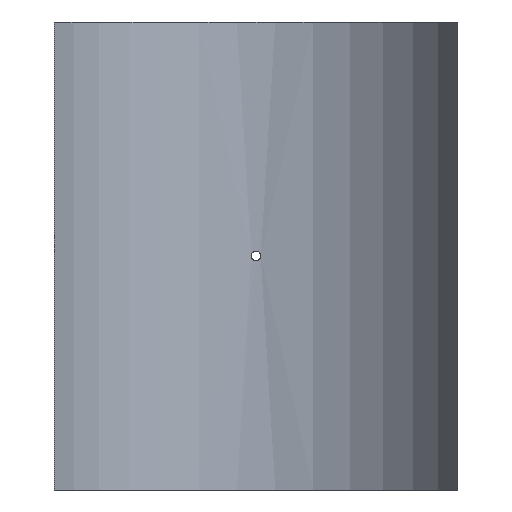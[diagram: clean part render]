
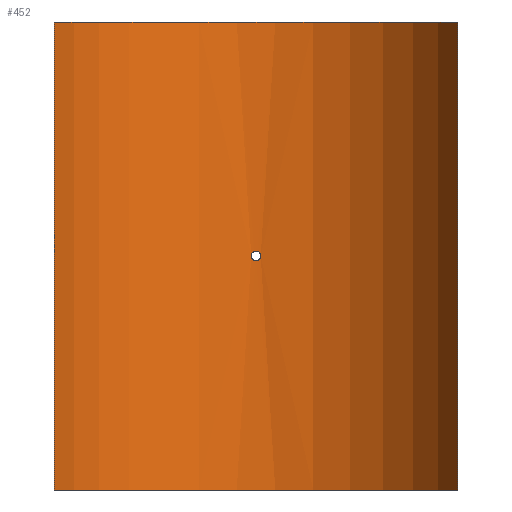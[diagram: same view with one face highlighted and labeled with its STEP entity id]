
A CAD part, front view. The second image highlights one B-rep face of the part: STEP entity #452.
In plain terms, the highlighted cylindrical face has radius 225 mm (diameter 450 mm), a partial arc.
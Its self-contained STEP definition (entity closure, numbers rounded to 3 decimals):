
#19=B_SPLINE_CURVE_WITH_KNOTS('',3,(#788,#789,#790,#791,#792,#793,#794,
#795,#796,#797,#798,#799,#800,#801,#802,#803,#804,#805,#806,#807,#808,#809,
#810,#811,#812,#813,#814,#815,#816,#817,#818,#819,#820,#821),
 .UNSPECIFIED.,.T.,.F.,(4,2,2,2,2,2,2,2,2,2,2,2,2,2,2,2,4),(0.,0.181,
0.362,0.542,0.723,0.904,
1.085,1.266,1.447,1.627,1.808,
1.989,2.17,2.351,2.531,2.712,
2.893),.UNSPECIFIED.);
#43=LINE('',#1065,#62);
#44=LINE('',#1068,#63);
#62=VECTOR('',#661,10.);
#63=VECTOR('',#664,10.);
#76=CYLINDRICAL_SURFACE('',#530,225.);
#88=FACE_BOUND('',#167,.T.);
#127=FACE_OUTER_BOUND('',#166,.T.);
#166=EDGE_LOOP('',(#405,#406,#407,#408));
#167=EDGE_LOOP('',(#409));
#201=CIRCLE('',#529,225.);
#202=CIRCLE('',#531,225.);
#219=VERTEX_POINT('',#786);
#242=VERTEX_POINT('',#1058);
#243=VERTEX_POINT('',#1060);
#244=VERTEX_POINT('',#1064);
#245=VERTEX_POINT('',#1066);
#267=EDGE_CURVE('',#219,#219,#19,.T.);
#299=EDGE_CURVE('',#242,#243,#201,.T.);
#301=EDGE_CURVE('',#244,#242,#43,.T.);
#302=EDGE_CURVE('',#245,#244,#202,.T.);
#303=EDGE_CURVE('',#245,#243,#44,.T.);
#405=ORIENTED_EDGE('',*,*,#301,.F.);
#406=ORIENTED_EDGE('',*,*,#302,.F.);
#407=ORIENTED_EDGE('',*,*,#303,.T.);
#408=ORIENTED_EDGE('',*,*,#299,.F.);
#409=ORIENTED_EDGE('',*,*,#267,.T.);
#452=ADVANCED_FACE('',(#127,#88),#76,.F.);
#529=AXIS2_PLACEMENT_3D('',#1061,#656,#657);
#530=AXIS2_PLACEMENT_3D('',#1063,#659,#660);
#531=AXIS2_PLACEMENT_3D('',#1067,#662,#663);
#656=DIRECTION('center_axis',(0.,0.,1.));
#657=DIRECTION('ref_axis',(0.9,0.436,0.));
#659=DIRECTION('center_axis',(0.,0.,1.));
#660=DIRECTION('ref_axis',(0.9,0.436,0.));
#661=DIRECTION('',(0.,0.,-1.));
#662=DIRECTION('center_axis',(0.,0.,-1.));
#663=DIRECTION('ref_axis',(0.9,0.436,0.));
#664=DIRECTION('',(0.,0.,-1.));
#786=CARTESIAN_POINT('',(4.8,224.949,0.));
#788=CARTESIAN_POINT('Ctrl Pts',(4.8,224.949,0.));
#789=CARTESIAN_POINT('Ctrl Pts',(4.8,224.949,-0.603));
#790=CARTESIAN_POINT('Ctrl Pts',(4.68,224.951,-1.246));
#791=CARTESIAN_POINT('Ctrl Pts',(4.19,224.961,-2.428));
#792=CARTESIAN_POINT('Ctrl Pts',(3.82,224.968,-2.968));
#793=CARTESIAN_POINT('Ctrl Pts',(2.968,224.981,-3.82));
#794=CARTESIAN_POINT('Ctrl Pts',(2.428,224.988,-4.19));
#795=CARTESIAN_POINT('Ctrl Pts',(1.246,224.997,-4.68));
#796=CARTESIAN_POINT('Ctrl Pts',(0.603,225.,-4.8));
#797=CARTESIAN_POINT('Ctrl Pts',(-0.603,225.,-4.8));
#798=CARTESIAN_POINT('Ctrl Pts',(-1.246,224.997,-4.68));
#799=CARTESIAN_POINT('Ctrl Pts',(-2.428,224.988,-4.19));
#800=CARTESIAN_POINT('Ctrl Pts',(-2.968,224.981,-3.82));
#801=CARTESIAN_POINT('Ctrl Pts',(-3.82,224.968,-2.968));
#802=CARTESIAN_POINT('Ctrl Pts',(-4.19,224.961,-2.428));
#803=CARTESIAN_POINT('Ctrl Pts',(-4.68,224.951,-1.246));
#804=CARTESIAN_POINT('Ctrl Pts',(-4.8,224.949,-0.603));
#805=CARTESIAN_POINT('Ctrl Pts',(-4.8,224.949,0.603));
#806=CARTESIAN_POINT('Ctrl Pts',(-4.68,224.951,1.246));
#807=CARTESIAN_POINT('Ctrl Pts',(-4.19,224.961,2.428));
#808=CARTESIAN_POINT('Ctrl Pts',(-3.82,224.968,2.968));
#809=CARTESIAN_POINT('Ctrl Pts',(-2.968,224.981,3.82));
#810=CARTESIAN_POINT('Ctrl Pts',(-2.428,224.988,4.19));
#811=CARTESIAN_POINT('Ctrl Pts',(-1.246,224.997,4.68));
#812=CARTESIAN_POINT('Ctrl Pts',(-0.603,225.,4.8));
#813=CARTESIAN_POINT('Ctrl Pts',(0.603,225.,4.8));
#814=CARTESIAN_POINT('Ctrl Pts',(1.246,224.997,4.68));
#815=CARTESIAN_POINT('Ctrl Pts',(2.428,224.988,4.19));
#816=CARTESIAN_POINT('Ctrl Pts',(2.968,224.981,3.82));
#817=CARTESIAN_POINT('Ctrl Pts',(3.82,224.968,2.968));
#818=CARTESIAN_POINT('Ctrl Pts',(4.19,224.961,2.428));
#819=CARTESIAN_POINT('Ctrl Pts',(4.68,224.951,1.246));
#820=CARTESIAN_POINT('Ctrl Pts',(4.8,224.949,0.603));
#821=CARTESIAN_POINT('Ctrl Pts',(4.8,224.949,0.));
#1058=CARTESIAN_POINT('',(202.5,98.075,-235.));
#1060=CARTESIAN_POINT('',(-202.5,98.075,-235.));
#1061=CARTESIAN_POINT('Origin',(0.,0.,
-235.));
#1063=CARTESIAN_POINT('Origin',(0.,0.,
0.));
#1064=CARTESIAN_POINT('',(202.5,98.075,235.));
#1065=CARTESIAN_POINT('',(202.5,98.075,0.));
#1066=CARTESIAN_POINT('',(-202.5,98.075,235.));
#1067=CARTESIAN_POINT('Origin',(0.,0.,
235.));
#1068=CARTESIAN_POINT('',(-202.5,98.075,0.));
